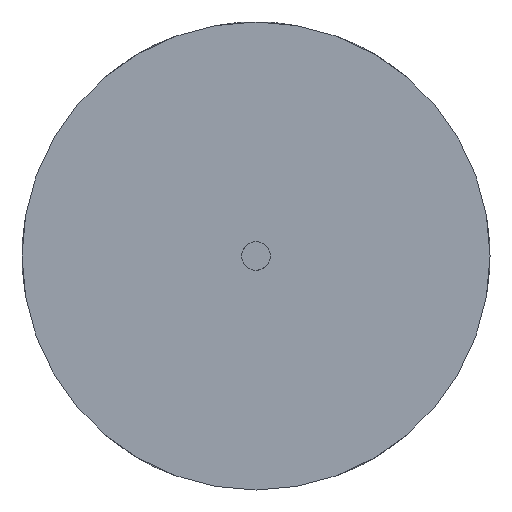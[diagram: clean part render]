
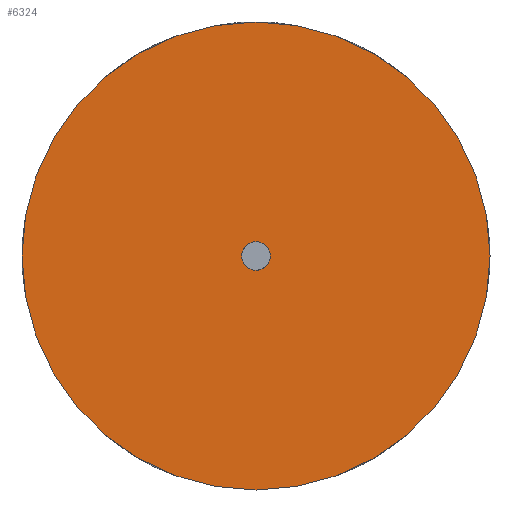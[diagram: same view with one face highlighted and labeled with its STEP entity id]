
A CAD part, front view. The second image highlights one B-rep face of the part: STEP entity #6324.
In plain terms, the highlighted planar face has unit normal (0, -1, 0).
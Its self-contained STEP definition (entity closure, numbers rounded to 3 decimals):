
#79 = VERTEX_POINT ( 'NONE', #4793 ) ;
#160 = ORIENTED_EDGE ( 'NONE', *, *, #5091, .F. ) ;
#175 = CARTESIAN_POINT ( 'NONE',  ( 0., 0., 0. ) ) ;
#284 = DIRECTION ( 'NONE',  ( 0., 0., -1. ) ) ;
#775 = CARTESIAN_POINT ( 'NONE',  ( 0., 0., -6. ) ) ;
#960 = VERTEX_POINT ( 'NONE', #2781 ) ;
#1031 = EDGE_CURVE ( 'NONE', #79, #960, #3092, .T. ) ;
#1305 = DIRECTION ( 'NONE',  ( 0., 0., -1. ) ) ;
#1392 = AXIS2_PLACEMENT_3D ( 'NONE', #2283, #4709, #1305 ) ;
#1595 = PLANE ( 'NONE',  #3354 ) ;
#1667 = DIRECTION ( 'NONE',  ( 0., 0., 1. ) ) ;
#1679 = EDGE_CURVE ( 'NONE', #960, #79, #2631, .T. ) ;
#2003 = FACE_OUTER_BOUND ( 'NONE', #3276, .T. ) ;
#2125 = DIRECTION ( 'NONE',  ( 0., 1., 0. ) ) ;
#2283 = CARTESIAN_POINT ( 'NONE',  ( 0., 0., 0. ) ) ;
#2631 = CIRCLE ( 'NONE', #4870, 98. ) ;
#2781 = CARTESIAN_POINT ( 'NONE',  ( 0., 0., -98. ) ) ;
#2905 = CIRCLE ( 'NONE', #1392, 6. ) ;
#3092 = CIRCLE ( 'NONE', #3667, 98. ) ;
#3226 = DIRECTION ( 'NONE',  ( 0., -1., 0. ) ) ;
#3276 = EDGE_LOOP ( 'NONE', ( #4859, #5338 ) ) ;
#3354 = AXIS2_PLACEMENT_3D ( 'NONE', #5016, #4088, #1667 ) ;
#3667 = AXIS2_PLACEMENT_3D ( 'NONE', #5253, #6243, #4274 ) ;
#3700 = VERTEX_POINT ( 'NONE', #4951 ) ;
#3866 = EDGE_CURVE ( 'NONE', #6184, #3700, #2905, .T. ) ;
#4088 = DIRECTION ( 'NONE',  ( 0., 1., 0. ) ) ;
#4188 = ORIENTED_EDGE ( 'NONE', *, *, #3866, .F. ) ;
#4274 = DIRECTION ( 'NONE',  ( 0., 0., 1. ) ) ;
#4471 = CIRCLE ( 'NONE', #5552, 6. ) ;
#4656 = EDGE_LOOP ( 'NONE', ( #4188, #160 ) ) ;
#4709 = DIRECTION ( 'NONE',  ( 0., -1., 0. ) ) ;
#4793 = CARTESIAN_POINT ( 'NONE',  ( 0., 0., 98. ) ) ;
#4859 = ORIENTED_EDGE ( 'NONE', *, *, #1679, .F. ) ;
#4870 = AXIS2_PLACEMENT_3D ( 'NONE', #175, #2125, #5613 ) ;
#4951 = CARTESIAN_POINT ( 'NONE',  ( 0., 0., 6. ) ) ;
#5016 = CARTESIAN_POINT ( 'NONE',  ( 0., 0., 0. ) ) ;
#5091 = EDGE_CURVE ( 'NONE', #3700, #6184, #4471, .T. ) ;
#5247 = CARTESIAN_POINT ( 'NONE',  ( 0., 0., 0. ) ) ;
#5253 = CARTESIAN_POINT ( 'NONE',  ( 0., 0., 0. ) ) ;
#5338 = ORIENTED_EDGE ( 'NONE', *, *, #1031, .F. ) ;
#5552 = AXIS2_PLACEMENT_3D ( 'NONE', #5247, #3226, #284 ) ;
#5613 = DIRECTION ( 'NONE',  ( 0., 0., 1. ) ) ;
#5786 = FACE_BOUND ( 'NONE', #4656, .T. ) ;
#6184 = VERTEX_POINT ( 'NONE', #775 ) ;
#6243 = DIRECTION ( 'NONE',  ( 0., 1., 0. ) ) ;
#6324 = ADVANCED_FACE ( 'NONE', ( #5786, #2003 ), #1595, .F. ) ;
